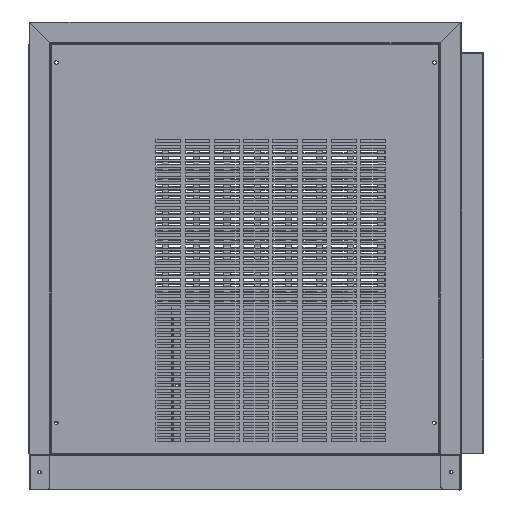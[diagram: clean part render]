
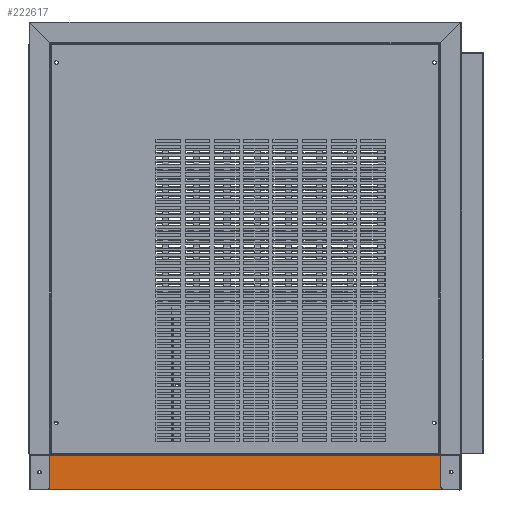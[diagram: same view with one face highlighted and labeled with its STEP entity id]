
A CAD part, left-side view. The second image highlights one B-rep face of the part: STEP entity #222617.
In plain terms, the highlighted planar face has unit normal (-1, 0, 0).
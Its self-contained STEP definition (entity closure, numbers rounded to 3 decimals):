
#1283=CIRCLE('',#234797,2.067);
#1284=CIRCLE('',#234798,2.067);
#61706=ORIENTED_EDGE('',*,*,#92298,.F.);
#61707=ORIENTED_EDGE('',*,*,#92299,.F.);
#61708=ORIENTED_EDGE('',*,*,#92286,.F.);
#61709=ORIENTED_EDGE('',*,*,#92290,.T.);
#61710=ORIENTED_EDGE('',*,*,#92300,.T.);
#61711=ORIENTED_EDGE('',*,*,#92301,.F.);
#61712=ORIENTED_EDGE('',*,*,#92302,.T.);
#61713=ORIENTED_EDGE('',*,*,#92287,.T.);
#61714=ORIENTED_EDGE('',*,*,#92282,.F.);
#92282=EDGE_CURVE('',#112583,#112581,#142169,.T.);
#92286=EDGE_CURVE('',#112585,#112583,#142173,.T.);
#92287=EDGE_CURVE('',#112586,#112581,#142174,.T.);
#92290=EDGE_CURVE('',#112585,#112588,#142177,.T.);
#92298=EDGE_CURVE('',#112594,#112594,#1283,.T.);
#92299=EDGE_CURVE('',#112595,#112595,#1284,.T.);
#92300=EDGE_CURVE('',#112588,#112596,#142183,.T.);
#92301=EDGE_CURVE('',#112597,#112596,#142184,.T.);
#92302=EDGE_CURVE('',#112597,#112586,#142185,.T.);
#112581=VERTEX_POINT('',#347978);
#112583=VERTEX_POINT('',#347987);
#112585=VERTEX_POINT('',#347997);
#112586=VERTEX_POINT('',#348001);
#112588=VERTEX_POINT('',#348007);
#112594=VERTEX_POINT('',#348023);
#112595=VERTEX_POINT('',#348025);
#112596=VERTEX_POINT('',#348027);
#112597=VERTEX_POINT('',#348029);
#142169=LINE('',#347990,#171768);
#142173=LINE('',#347998,#171772);
#142174=LINE('',#348000,#171773);
#142177=LINE('',#348006,#171776);
#142183=LINE('',#348026,#171782);
#142184=LINE('',#348028,#171783);
#142185=LINE('',#348030,#171784);
#171768=VECTOR('',#285960,1000.);
#171772=VECTOR('',#285968,1000.);
#171773=VECTOR('',#285971,1000.);
#171776=VECTOR('',#285976,1000.);
#171782=VECTOR('',#285994,1000.);
#171783=VECTOR('',#285995,1000.);
#171784=VECTOR('',#285996,1000.);
#187059=EDGE_LOOP('',(#61706));
#187060=EDGE_LOOP('',(#61707));
#187061=EDGE_LOOP('',(#61708,#61709,#61710,#61711,#61712,#61713,#61714));
#202386=FACE_BOUND('',#187059,.T.);
#202387=FACE_BOUND('',#187060,.T.);
#202388=FACE_BOUND('',#187061,.T.);
#212382=PLANE('',#234796);
#222617=ADVANCED_FACE('',(#202386,#202387,#202388),#212382,.F.);
#234796=AXIS2_PLACEMENT_3D('',#348021,#285988,#285989);
#234797=AXIS2_PLACEMENT_3D('',#348022,#285990,#285991);
#234798=AXIS2_PLACEMENT_3D('',#348024,#285992,#285993);
#285960=DIRECTION('',(0.,-1.,0.));
#285968=DIRECTION('',(0.,-1.,0.));
#285971=DIRECTION('',(0.,0.,1.));
#285976=DIRECTION('',(0.,0.,-1.));
#285988=DIRECTION('',(1.,0.,0.));
#285989=DIRECTION('',(0.,1.,0.));
#285990=DIRECTION('',(-1.,0.,0.));
#285991=DIRECTION('',(0.,-1.,0.));
#285992=DIRECTION('',(-1.,0.,0.));
#285993=DIRECTION('',(0.,-1.,0.));
#285994=DIRECTION('',(0.,-0.707,-0.707));
#285995=DIRECTION('',(0.,1.,0.));
#285996=DIRECTION('',(0.,-0.707,0.707));
#347978=CARTESIAN_POINT('',(-545.,-348.498,-1.502));
#347987=CARTESIAN_POINT('',(-545.,348.498,-1.502));
#347990=CARTESIAN_POINT('',(-545.,348.498,-1.502));
#347997=CARTESIAN_POINT('',(-545.,348.5,-1.502));
#347998=CARTESIAN_POINT('',(-545.,350.,-1.502));
#348000=CARTESIAN_POINT('',(-545.,-348.498,-1.501));
#348001=CARTESIAN_POINT('',(-545.,-348.498,-56.488));
#348006=CARTESIAN_POINT('',(-545.,348.5,-1.501));
#348007=CARTESIAN_POINT('',(-545.,348.5,-56.486));
#348021=CARTESIAN_POINT('',(-545.,0.,541.999));
#348022=CARTESIAN_POINT('',(-545.,-334.2,-29.));
#348023=CARTESIAN_POINT('',(-545.,-336.267,-29.));
#348024=CARTESIAN_POINT('',(-545.,334.397,-29.));
#348025=CARTESIAN_POINT('',(-545.,332.33,-29.));
#348026=CARTESIAN_POINT('',(-545.,349.175,-55.812));
#348027=CARTESIAN_POINT('',(-545.,348.488,-56.499));
#348028=CARTESIAN_POINT('',(-545.,-350.,-56.499));
#348029=CARTESIAN_POINT('',(-545.,-348.488,-56.499));
#348030=CARTESIAN_POINT('',(-545.,-348.493,-56.494));
